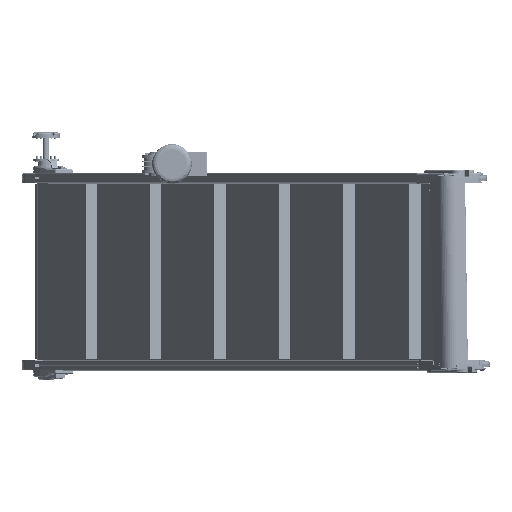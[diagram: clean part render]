
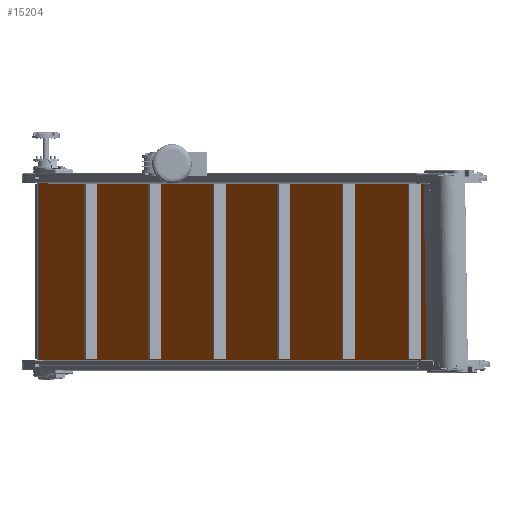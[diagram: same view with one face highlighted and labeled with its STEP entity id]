
A CAD part, left-side view. The second image highlights one B-rep face of the part: STEP entity #15204.
In plain terms, the highlighted planar face has unit normal (-0.5, 0.866, 0).
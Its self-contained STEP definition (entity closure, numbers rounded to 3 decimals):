
#2380 = EDGE_CURVE ( 'NONE', #91550, #65993, #182768, .T. ) ;
#15204 = ADVANCED_FACE ( 'NONE', ( #80652 ), #146088, .F. ) ;
#21742 = CARTESIAN_POINT ( 'NONE',  ( 515.16, 28.383, 296.5 ) ) ;
#31082 = CARTESIAN_POINT ( 'NONE',  ( 2697.544, 1288.383, -296.5 ) ) ;
#31965 = VERTEX_POINT ( 'NONE', #182184 ) ;
#45875 = ORIENTED_EDGE ( 'NONE', *, *, #102531, .F. ) ;
#65993 = VERTEX_POINT ( 'NONE', #31082 ) ;
#66889 = DIRECTION ( 'NONE',  ( 0., 0., -1. ) ) ;
#67302 = LINE ( 'NONE', #161778, #146180 ) ;
#72465 = ORIENTED_EDGE ( 'NONE', *, *, #2380, .T. ) ;
#72892 = CARTESIAN_POINT ( 'NONE',  ( 515.16, 28.383, -296.5 ) ) ;
#80200 = VECTOR ( 'NONE', #166583, 1000. ) ;
#80652 = FACE_OUTER_BOUND ( 'NONE', #206936, .T. ) ;
#81841 = CARTESIAN_POINT ( 'NONE',  ( 2697.544, 1288.383, 296.5 ) ) ;
#91550 = VERTEX_POINT ( 'NONE', #158884 ) ;
#92486 = EDGE_CURVE ( 'NONE', #65993, #167500, #67302, .T. ) ;
#94600 = CARTESIAN_POINT ( 'NONE',  ( 2697.544, 1288.383, 296.5 ) ) ;
#102531 = EDGE_CURVE ( 'NONE', #91550, #31965, #132252, .T. ) ;
#111117 = ORIENTED_EDGE ( 'NONE', *, *, #135875, .F. ) ;
#120437 = DIRECTION ( 'NONE',  ( 0., 0., -1. ) ) ;
#129988 = DIRECTION ( 'NONE',  ( 0.866, 0.5, 0. ) ) ;
#132252 = LINE ( 'NONE', #81841, #80200 ) ;
#135875 = EDGE_CURVE ( 'NONE', #31965, #167500, #189113, .T. ) ;
#146088 = PLANE ( 'NONE',  #186148 ) ;
#146180 = VECTOR ( 'NONE', #177895, 1000. ) ;
#149228 = VECTOR ( 'NONE', #66889, 1000. ) ;
#158884 = CARTESIAN_POINT ( 'NONE',  ( 2697.544, 1288.383, 296.5 ) ) ;
#159435 = VECTOR ( 'NONE', #120437, 1000. ) ;
#161778 = CARTESIAN_POINT ( 'NONE',  ( 2697.544, 1288.383, -296.5 ) ) ;
#163502 = CARTESIAN_POINT ( 'NONE',  ( 2697.544, 1288.383, 296.5 ) ) ;
#166583 = DIRECTION ( 'NONE',  ( -0.866, -0.5, 0. ) ) ;
#167500 = VERTEX_POINT ( 'NONE', #72892 ) ;
#177895 = DIRECTION ( 'NONE',  ( -0.866, -0.5, 0. ) ) ;
#182184 = CARTESIAN_POINT ( 'NONE',  ( 515.16, 28.383, 296.5 ) ) ;
#182768 = LINE ( 'NONE', #163502, #149228 ) ;
#185733 = ORIENTED_EDGE ( 'NONE', *, *, #92486, .T. ) ;
#186148 = AXIS2_PLACEMENT_3D ( 'NONE', #94600, #211592, #129988 ) ;
#189113 = LINE ( 'NONE', #21742, #159435 ) ;
#206936 = EDGE_LOOP ( 'NONE', ( #185733, #111117, #45875, #72465 ) ) ;
#211592 = DIRECTION ( 'NONE',  ( 0.5, -0.866, 0. ) ) ;
